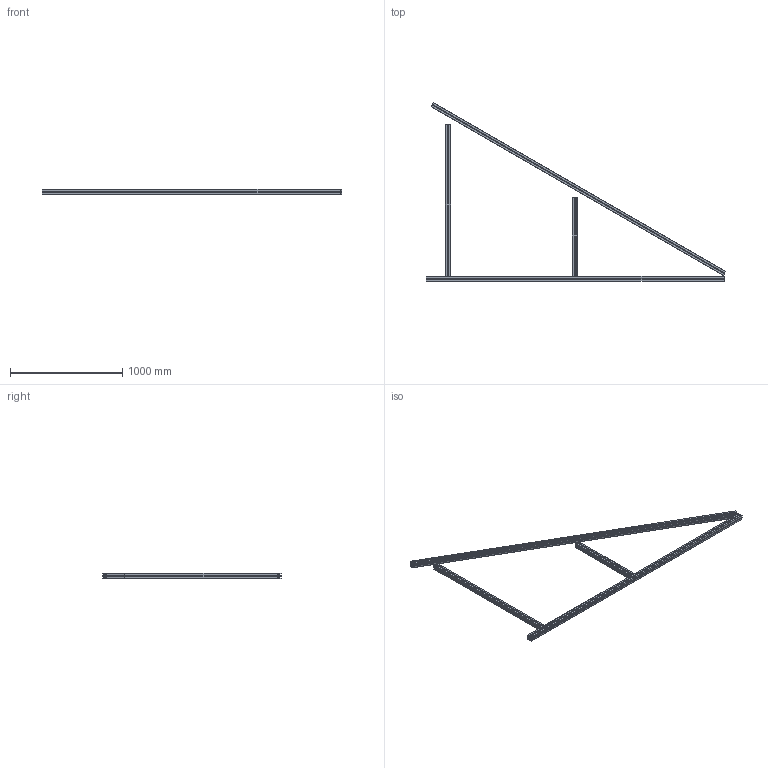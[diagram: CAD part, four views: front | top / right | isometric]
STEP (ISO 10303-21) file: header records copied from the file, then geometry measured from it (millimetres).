
FILE_DESCRIPTION (( 'STEP AP203' ), '1' );
FILE_NAME ('084.106.401.STEP', '2013-01-24T08:57:28', ( 'Alusic' ), ( 'Alusic' ), 'SwSTEP 2.0', 'SolidWorks 2011', '' );
FILE_SCHEMA (( 'CONFIG_CONTROL_DESIGN' ));
Length unit declared in the file: millimetre
Products named in the file (1): 084.106.401
Bounding box: 2662.5 x 1590.93 x 45 mm (x, y, z)
Volume: 3286255.8 mm3; surface area: 4723151 mm2
Topology: 4 solids, 4 shells, 616 faces, 1806 edges, 1196 vertices
Faces by surface type: plane 334, cylinder 282
Entity records: 20743 total; most frequent: CARTESIAN_POINT 3897, ORIENTED_EDGE 3612, DIRECTION 3480, EDGE_CURVE 1806, VECTOR 1250, LINE 1250, VERTEX_POINT 1196, AXIS2_PLACEMENT_3D 1115
